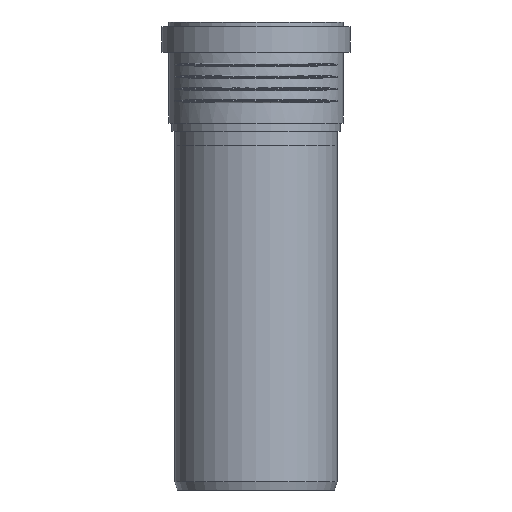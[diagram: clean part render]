
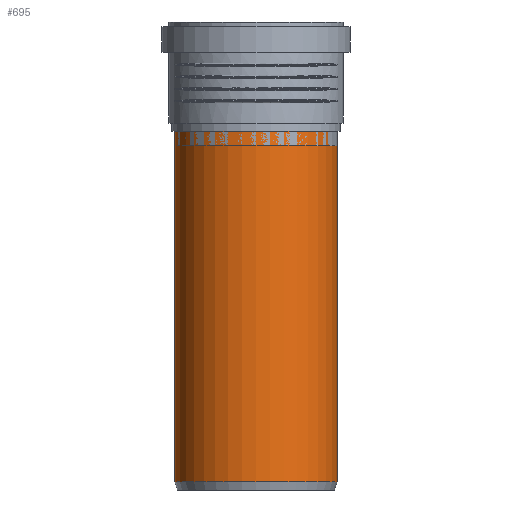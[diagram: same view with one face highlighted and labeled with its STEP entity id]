
A CAD part, front view. The second image highlights one B-rep face of the part: STEP entity #695.
In plain terms, the highlighted cylindrical face has radius 55.1 mm (diameter 110.2 mm), a full revolution.
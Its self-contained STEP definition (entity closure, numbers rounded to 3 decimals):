
#94=CYLINDRICAL_SURFACE($,#750,55.1);
#118=FACE_BOUND($,#198,.T.);
#153=FACE_OUTER_BOUND($,#197,.T.);
#197=EDGE_LOOP($,(#472));
#198=EDGE_LOOP($,(#473));
#272=CIRCLE($,#747,55.1);
#274=CIRCLE($,#751,55.1);
#311=VERTEX_POINT($,#1021);
#313=VERTEX_POINT($,#1027);
#382=EDGE_CURVE($,#311,#311,#272,.T.);
#384=EDGE_CURVE($,#313,#313,#274,.T.);
#472=ORIENTED_EDGE($,*,*,#384,.T.);
#473=ORIENTED_EDGE($,*,*,#382,.F.);
#695=ADVANCED_FACE($,(#153,#118),#94,.T.);
#747=AXIS2_PLACEMENT_3D($,#1022,#841,#842);
#750=AXIS2_PLACEMENT_3D($,#1026,#847,#848);
#751=AXIS2_PLACEMENT_3D($,#1028,#849,#850);
#841=DIRECTION('center_axis',(0.,0.,-1.));
#842=DIRECTION('ref_axis',(-1.,0.,0.));
#847=DIRECTION('center_axis',(0.,0.,1.));
#848=DIRECTION('ref_axis',(-1.,0.,0.));
#849=DIRECTION('center_axis',(0.,0.,-1.));
#850=DIRECTION('ref_axis',(-1.,0.,0.));
#1021=CARTESIAN_POINT('',(55.1,0.,-116.45));
#1022=CARTESIAN_POINT('Origin',(0.,0.,-116.45));
#1026=CARTESIAN_POINT('Origin',(0.,0.,0.));
#1027=CARTESIAN_POINT('',(55.1,0.,121.95));
#1028=CARTESIAN_POINT('Origin',(0.,0.,121.95));
